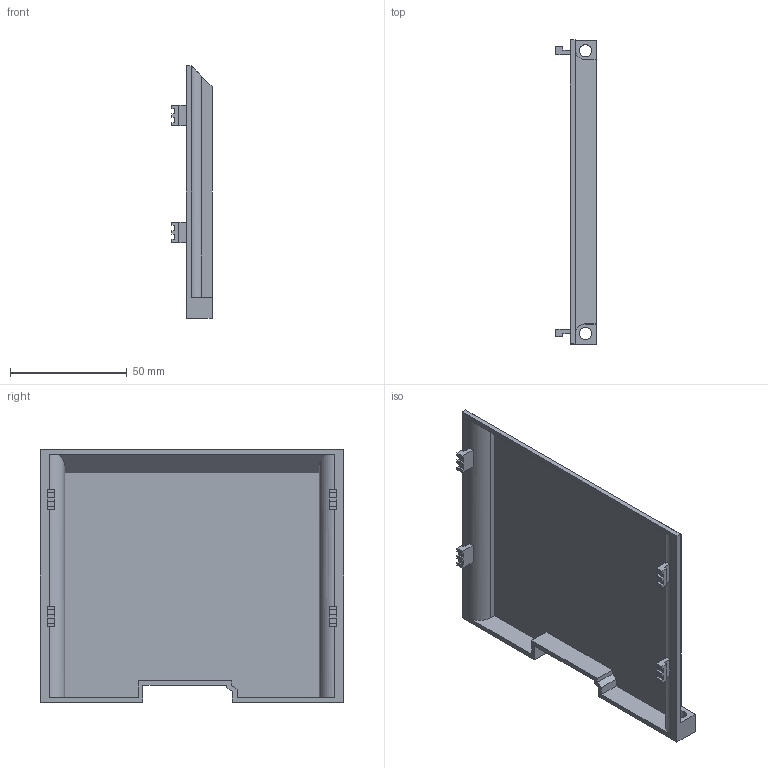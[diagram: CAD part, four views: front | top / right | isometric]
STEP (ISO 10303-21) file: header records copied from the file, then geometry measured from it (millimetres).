
FILE_DESCRIPTION (( 'STEP AP203' ), '1' );
FILE_NAME ('jepmc_op3001_e.STEP', '2013-01-28T01:22:16', ( '匠エンジニアリング山之内' ), ( 'TAKUMI-Engniaring' ), 'SwSTEP 2.0', 'SolidWorks 2006303', '' );
FILE_SCHEMA (( 'CONFIG_CONTROL_DESIGN' ));
Length unit declared in the file: millimetre
Products named in the file (1): jepmc_op3001_e
Bounding box: 17.2 x 130 x 108 mm (x, y, z)
Volume: 34833.7 mm3; surface area: 35613.4 mm2
Topology: 1 solids, 1 shells, 99 faces, 274 edges, 182 vertices
Faces by surface type: plane 91, cylinder 8
Entity records: 3199 total; most frequent: CARTESIAN_POINT 568, ORIENTED_EDGE 548, DIRECTION 492, EDGE_CURVE 274, VECTOR 248, LINE 248, VERTEX_POINT 182, AXIS2_PLACEMENT_3D 122
